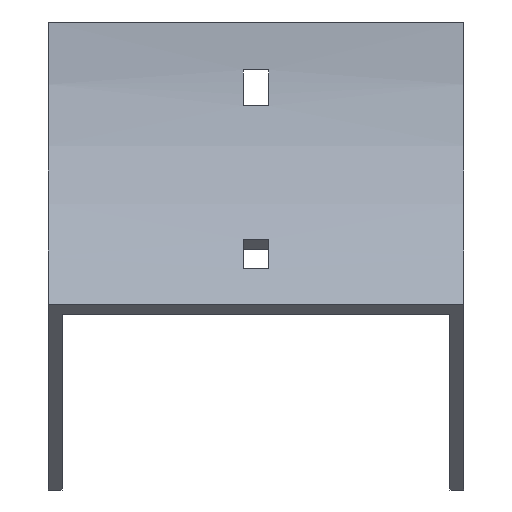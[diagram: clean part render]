
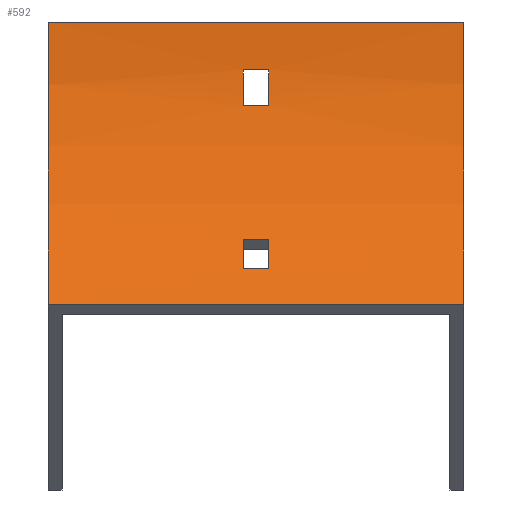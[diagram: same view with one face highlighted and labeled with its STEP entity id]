
A CAD part, front view. The second image highlights one B-rep face of the part: STEP entity #592.
In plain terms, the highlighted cylindrical face has radius 100 mm (diameter 200 mm), a partial arc.
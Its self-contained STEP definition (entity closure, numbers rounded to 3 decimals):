
#15 = EDGE_CURVE ( 'NONE', #1126, #1107, #892, .T. ) ;
#31 = EDGE_LOOP ( 'NONE', ( #883, #1004, #325, #302 ) ) ;
#69 = AXIS2_PLACEMENT_3D ( 'NONE', #788, #1137, #263 ) ;
#73 = CARTESIAN_POINT ( 'NONE',  ( 52., -2.23, -21. ) ) ;
#87 = LINE ( 'NONE', #321, #719 ) ;
#128 = VECTOR ( 'NONE', #855, 1000. ) ;
#129 = ORIENTED_EDGE ( 'NONE', *, *, #208, .T. ) ;
#141 = ORIENTED_EDGE ( 'NONE', *, *, #1112, .T. ) ;
#143 = VERTEX_POINT ( 'NONE', #310 ) ;
#152 = CARTESIAN_POINT ( 'NONE',  ( -52., -29.289, -70.711 ) ) ;
#159 = DIRECTION ( 'NONE',  ( 0., 0., 1. ) ) ;
#168 = EDGE_CURVE ( 'NONE', #870, #207, #342, .T. ) ;
#170 = CARTESIAN_POINT ( 'NONE',  ( 52., -29.289, -70.711 ) ) ;
#193 = LINE ( 'NONE', #999, #1031 ) ;
#207 = VERTEX_POINT ( 'NONE', #760 ) ;
#208 = EDGE_CURVE ( 'NONE', #822, #319, #953, .T. ) ;
#214 = CARTESIAN_POINT ( 'NONE',  ( 3.25, -100., 0. ) ) ;
#222 = AXIS2_PLACEMENT_3D ( 'NONE', #214, #314, #820 ) ;
#231 = CARTESIAN_POINT ( 'NONE',  ( 52., -0.723, -12. ) ) ;
#239 = CIRCLE ( 'NONE', #629, 100. ) ;
#261 = VERTEX_POINT ( 'NONE', #170 ) ;
#262 = DIRECTION ( 'NONE',  ( -1., 0., 0. ) ) ;
#263 = DIRECTION ( 'NONE',  ( 0., 0., 1. ) ) ;
#267 = CARTESIAN_POINT ( 'NONE',  ( 3.25, -100., 0. ) ) ;
#274 = EDGE_LOOP ( 'NONE', ( #565, #728, #129, #141 ) ) ;
#277 = CARTESIAN_POINT ( 'NONE',  ( 3.25, -2.23, -21. ) ) ;
#302 = ORIENTED_EDGE ( 'NONE', *, *, #776, .T. ) ;
#310 = CARTESIAN_POINT ( 'NONE',  ( 3.25, -16.017, -54.285 ) ) ;
#314 = DIRECTION ( 'NONE',  ( -1., 0., 0. ) ) ;
#319 = VERTEX_POINT ( 'NONE', #1034 ) ;
#321 = CARTESIAN_POINT ( 'NONE',  ( 52., -16.017, -54.285 ) ) ;
#325 = ORIENTED_EDGE ( 'NONE', *, *, #739, .F. ) ;
#339 = VERTEX_POINT ( 'NONE', #965 ) ;
#342 = LINE ( 'NONE', #73, #1119 ) ;
#348 = EDGE_CURVE ( 'NONE', #388, #665, #1012, .T. ) ;
#358 = CARTESIAN_POINT ( 'NONE',  ( 52., -21.315, -61.714 ) ) ;
#361 = DIRECTION ( 'NONE',  ( 0., 0., 1. ) ) ;
#370 = CARTESIAN_POINT ( 'NONE',  ( -52., 0., 0. ) ) ;
#388 = VERTEX_POINT ( 'NONE', #370 ) ;
#391 = FACE_BOUND ( 'NONE', #1131, .T. ) ;
#402 = CARTESIAN_POINT ( 'NONE',  ( 52., -100., 0. ) ) ;
#410 = DIRECTION ( 'NONE',  ( -1., 0., 0. ) ) ;
#422 = EDGE_CURVE ( 'NONE', #261, #665, #1056, .T. ) ;
#453 = EDGE_CURVE ( 'NONE', #1107, #143, #811, .T. ) ;
#484 = DIRECTION ( 'NONE',  ( 0., 0., 1. ) ) ;
#497 = DIRECTION ( 'NONE',  ( -1., 0., 0. ) ) ;
#501 = DIRECTION ( 'NONE',  ( 1., 0., 0. ) ) ;
#529 = DIRECTION ( 'NONE',  ( 0., 0., -1. ) ) ;
#537 = CIRCLE ( 'NONE', #222, 100. ) ;
#546 = DIRECTION ( 'NONE',  ( 1., 0., 0. ) ) ;
#550 = CARTESIAN_POINT ( 'NONE',  ( -3.25, -0.723, -12. ) ) ;
#559 = AXIS2_PLACEMENT_3D ( 'NONE', #986, #560, #529 ) ;
#560 = DIRECTION ( 'NONE',  ( -1., 0., 0. ) ) ;
#565 = ORIENTED_EDGE ( 'NONE', *, *, #168, .T. ) ;
#592 = ADVANCED_FACE ( 'NONE', ( #750, #597, #391 ), #1020, .F. ) ;
#597 = FACE_BOUND ( 'NONE', #274, .T. ) ;
#611 = CARTESIAN_POINT ( 'NONE',  ( 52., -100., 0. ) ) ;
#617 = DIRECTION ( 'NONE',  ( 1., 0., 0. ) ) ;
#629 = AXIS2_PLACEMENT_3D ( 'NONE', #916, #501, #764 ) ;
#630 = CARTESIAN_POINT ( 'NONE',  ( 52., -29.289, -70.711 ) ) ;
#646 = VECTOR ( 'NONE', #617, 1000. ) ;
#665 = VERTEX_POINT ( 'NONE', #152 ) ;
#669 = CIRCLE ( 'NONE', #1139, 100. ) ;
#694 = VERTEX_POINT ( 'NONE', #834 ) ;
#719 = VECTOR ( 'NONE', #842, 1000. ) ;
#727 = DIRECTION ( 'NONE',  ( -1., 0., 0. ) ) ;
#728 = ORIENTED_EDGE ( 'NONE', *, *, #1072, .T. ) ;
#735 = AXIS2_PLACEMENT_3D ( 'NONE', #402, #497, #484 ) ;
#739 = EDGE_CURVE ( 'NONE', #694, #261, #669, .T. ) ;
#743 = ORIENTED_EDGE ( 'NONE', *, *, #1010, .F. ) ;
#750 = FACE_OUTER_BOUND ( 'NONE', #31, .T. ) ;
#760 = CARTESIAN_POINT ( 'NONE',  ( -3.25, -2.23, -21. ) ) ;
#764 = DIRECTION ( 'NONE',  ( 0., 0., 1. ) ) ;
#776 = EDGE_CURVE ( 'NONE', #694, #388, #193, .T. ) ;
#783 = ORIENTED_EDGE ( 'NONE', *, *, #453, .F. ) ;
#788 = CARTESIAN_POINT ( 'NONE',  ( -52., -100., 0. ) ) ;
#811 = CIRCLE ( 'NONE', #921, 100. ) ;
#820 = DIRECTION ( 'NONE',  ( 0., 0., -1. ) ) ;
#822 = VERTEX_POINT ( 'NONE', #550 ) ;
#834 = CARTESIAN_POINT ( 'NONE',  ( 52., 0., 0. ) ) ;
#842 = DIRECTION ( 'NONE',  ( -1., 0., 0. ) ) ;
#853 = ORIENTED_EDGE ( 'NONE', *, *, #15, .F. ) ;
#855 = DIRECTION ( 'NONE',  ( 1., 0., 0. ) ) ;
#870 = VERTEX_POINT ( 'NONE', #277 ) ;
#883 = ORIENTED_EDGE ( 'NONE', *, *, #348, .T. ) ;
#892 = LINE ( 'NONE', #358, #646 ) ;
#896 = ORIENTED_EDGE ( 'NONE', *, *, #997, .F. ) ;
#916 = CARTESIAN_POINT ( 'NONE',  ( -3.25, -100., 0. ) ) ;
#921 = AXIS2_PLACEMENT_3D ( 'NONE', #267, #546, #361 ) ;
#953 = LINE ( 'NONE', #231, #128 ) ;
#965 = CARTESIAN_POINT ( 'NONE',  ( -3.25, -16.017, -54.285 ) ) ;
#968 = CARTESIAN_POINT ( 'NONE',  ( -3.25, -21.315, -61.714 ) ) ;
#975 = CIRCLE ( 'NONE', #559, 100. ) ;
#986 = CARTESIAN_POINT ( 'NONE',  ( -3.25, -100., 0. ) ) ;
#997 = EDGE_CURVE ( 'NONE', #339, #1126, #975, .T. ) ;
#999 = CARTESIAN_POINT ( 'NONE',  ( 52., 0., 0. ) ) ;
#1004 = ORIENTED_EDGE ( 'NONE', *, *, #422, .F. ) ;
#1010 = EDGE_CURVE ( 'NONE', #143, #339, #87, .T. ) ;
#1012 = CIRCLE ( 'NONE', #69, 100. ) ;
#1015 = CARTESIAN_POINT ( 'NONE',  ( 3.25, -21.315, -61.714 ) ) ;
#1020 = CYLINDRICAL_SURFACE ( 'NONE', #735, 100. ) ;
#1031 = VECTOR ( 'NONE', #727, 1000. ) ;
#1034 = CARTESIAN_POINT ( 'NONE',  ( 3.25, -0.723, -12. ) ) ;
#1048 = DIRECTION ( 'NONE',  ( -1., 0., 0. ) ) ;
#1056 = LINE ( 'NONE', #630, #1063 ) ;
#1063 = VECTOR ( 'NONE', #1048, 1000. ) ;
#1072 = EDGE_CURVE ( 'NONE', #207, #822, #239, .T. ) ;
#1107 = VERTEX_POINT ( 'NONE', #1015 ) ;
#1112 = EDGE_CURVE ( 'NONE', #319, #870, #537, .T. ) ;
#1119 = VECTOR ( 'NONE', #410, 1000. ) ;
#1126 = VERTEX_POINT ( 'NONE', #968 ) ;
#1131 = EDGE_LOOP ( 'NONE', ( #896, #743, #783, #853 ) ) ;
#1137 = DIRECTION ( 'NONE',  ( -1., 0., 0. ) ) ;
#1139 = AXIS2_PLACEMENT_3D ( 'NONE', #611, #262, #159 ) ;
